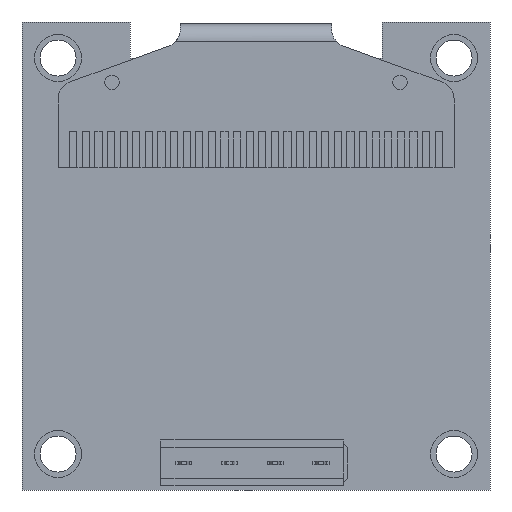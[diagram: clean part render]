
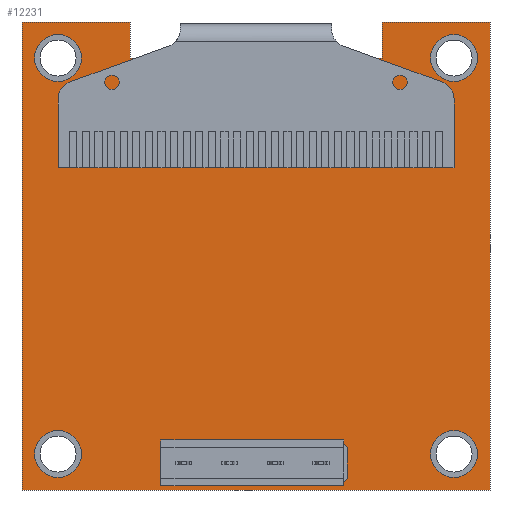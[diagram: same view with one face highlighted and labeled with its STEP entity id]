
A CAD part, front view. The second image highlights one B-rep face of the part: STEP entity #12231.
In plain terms, the highlighted planar face has unit normal (0, -1, 0).
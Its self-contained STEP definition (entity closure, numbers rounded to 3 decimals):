
#89=FACE_BOUND('',#1399,.T.);
#90=FACE_BOUND('',#1400,.T.);
#91=FACE_BOUND('',#1401,.T.);
#92=FACE_BOUND('',#1402,.T.);
#93=FACE_BOUND('',#1403,.T.);
#94=FACE_BOUND('',#1404,.T.);
#95=FACE_BOUND('',#1405,.T.);
#96=FACE_BOUND('',#1406,.T.);
#149=CIRCLE('',#13055,1.3);
#151=CIRCLE('',#13058,1.3);
#153=CIRCLE('',#13061,1.3);
#155=CIRCLE('',#13064,1.3);
#157=CIRCLE('',#13067,0.65);
#159=CIRCLE('',#13070,0.65);
#161=CIRCLE('',#13073,0.65);
#657=FACE_OUTER_BOUND('',#1398,.T.);
#1398=EDGE_LOOP('',(#8614,#8615,#8616,#8617,#8618,#8619,#8620,#8621));
#1399=EDGE_LOOP('',(#8622));
#1400=EDGE_LOOP('',(#8623));
#1401=EDGE_LOOP('',(#8624));
#1402=EDGE_LOOP('',(#8625));
#1403=EDGE_LOOP('',(#8626));
#1404=EDGE_LOOP('',(#8627));
#1405=EDGE_LOOP('',(#8628));
#1406=EDGE_LOOP('',(#8629,#8630,#8631,#8632));
#2264=LINE('',#17574,#3848);
#2277=LINE('',#17600,#3861);
#2278=LINE('',#17602,#3862);
#2279=LINE('',#17604,#3863);
#2280=LINE('',#17606,#3864);
#2281=LINE('',#17608,#3865);
#2282=LINE('',#17610,#3866);
#2283=LINE('',#17611,#3867);
#2284=LINE('',#17614,#3868);
#2285=LINE('',#17616,#3869);
#2286=LINE('',#17618,#3870);
#2287=LINE('',#17619,#3871);
#3848=VECTOR('',#14344,1000.);
#3861=VECTOR('',#14361,1000.);
#3862=VECTOR('',#14362,1000.);
#3863=VECTOR('',#14363,1000.);
#3864=VECTOR('',#14364,1000.);
#3865=VECTOR('',#14365,1000.);
#3866=VECTOR('',#14366,1000.);
#3867=VECTOR('',#14367,1000.);
#3868=VECTOR('',#14368,1000.);
#3869=VECTOR('',#14369,1000.);
#3870=VECTOR('',#14370,1000.);
#3871=VECTOR('',#14371,1000.);
#5348=VERTEX_POINT('',#17528);
#5350=VERTEX_POINT('',#17534);
#5352=VERTEX_POINT('',#17540);
#5354=VERTEX_POINT('',#17546);
#5356=VERTEX_POINT('',#17552);
#5358=VERTEX_POINT('',#17558);
#5360=VERTEX_POINT('',#17564);
#5363=VERTEX_POINT('',#17571);
#5364=VERTEX_POINT('',#17573);
#5375=VERTEX_POINT('',#17599);
#5376=VERTEX_POINT('',#17601);
#5377=VERTEX_POINT('',#17603);
#5378=VERTEX_POINT('',#17605);
#5379=VERTEX_POINT('',#17607);
#5380=VERTEX_POINT('',#17609);
#5381=VERTEX_POINT('',#17612);
#5382=VERTEX_POINT('',#17613);
#5383=VERTEX_POINT('',#17615);
#5384=VERTEX_POINT('',#17617);
#6575=EDGE_CURVE('',#5348,#5348,#149,.T.);
#6578=EDGE_CURVE('',#5350,#5350,#151,.T.);
#6581=EDGE_CURVE('',#5352,#5352,#153,.T.);
#6584=EDGE_CURVE('',#5354,#5354,#155,.T.);
#6587=EDGE_CURVE('',#5356,#5356,#157,.T.);
#6590=EDGE_CURVE('',#5358,#5358,#159,.T.);
#6593=EDGE_CURVE('',#5360,#5360,#161,.T.);
#6596=EDGE_CURVE('',#5363,#5364,#2264,.T.);
#6609=EDGE_CURVE('',#5375,#5363,#2277,.T.);
#6610=EDGE_CURVE('',#5376,#5375,#2278,.T.);
#6611=EDGE_CURVE('',#5377,#5376,#2279,.T.);
#6612=EDGE_CURVE('',#5378,#5377,#2280,.T.);
#6613=EDGE_CURVE('',#5379,#5378,#2281,.T.);
#6614=EDGE_CURVE('',#5380,#5379,#2282,.T.);
#6615=EDGE_CURVE('',#5364,#5380,#2283,.T.);
#6616=EDGE_CURVE('',#5381,#5382,#2284,.T.);
#6617=EDGE_CURVE('',#5382,#5383,#2285,.T.);
#6618=EDGE_CURVE('',#5383,#5384,#2286,.T.);
#6619=EDGE_CURVE('',#5384,#5381,#2287,.T.);
#8614=ORIENTED_EDGE('',*,*,#6609,.F.);
#8615=ORIENTED_EDGE('',*,*,#6610,.F.);
#8616=ORIENTED_EDGE('',*,*,#6611,.F.);
#8617=ORIENTED_EDGE('',*,*,#6612,.F.);
#8618=ORIENTED_EDGE('',*,*,#6613,.F.);
#8619=ORIENTED_EDGE('',*,*,#6614,.F.);
#8620=ORIENTED_EDGE('',*,*,#6615,.F.);
#8621=ORIENTED_EDGE('',*,*,#6596,.F.);
#8622=ORIENTED_EDGE('',*,*,#6578,.T.);
#8623=ORIENTED_EDGE('',*,*,#6584,.T.);
#8624=ORIENTED_EDGE('',*,*,#6590,.T.);
#8625=ORIENTED_EDGE('',*,*,#6593,.T.);
#8626=ORIENTED_EDGE('',*,*,#6587,.T.);
#8627=ORIENTED_EDGE('',*,*,#6581,.T.);
#8628=ORIENTED_EDGE('',*,*,#6575,.T.);
#8629=ORIENTED_EDGE('',*,*,#6616,.T.);
#8630=ORIENTED_EDGE('',*,*,#6617,.T.);
#8631=ORIENTED_EDGE('',*,*,#6618,.T.);
#8632=ORIENTED_EDGE('',*,*,#6619,.T.);
#11547=PLANE('',#13076);
#12231=ADVANCED_FACE('',(#657,#89,#90,#91,#92,#93,#94,#95,#96),#11547,.T.);
#13055=AXIS2_PLACEMENT_3D('',#17530,#14296,#14297);
#13058=AXIS2_PLACEMENT_3D('',#17536,#14303,#14304);
#13061=AXIS2_PLACEMENT_3D('',#17542,#14310,#14311);
#13064=AXIS2_PLACEMENT_3D('',#17548,#14317,#14318);
#13067=AXIS2_PLACEMENT_3D('',#17554,#14324,#14325);
#13070=AXIS2_PLACEMENT_3D('',#17560,#14331,#14332);
#13073=AXIS2_PLACEMENT_3D('',#17566,#14338,#14339);
#13076=AXIS2_PLACEMENT_3D('',#17598,#14359,#14360);
#14296=DIRECTION('center_axis',(0.,1.,0.));
#14297=DIRECTION('ref_axis',(0.,0.,1.));
#14303=DIRECTION('center_axis',(0.,1.,0.));
#14304=DIRECTION('ref_axis',(0.,0.,-1.));
#14310=DIRECTION('center_axis',(0.,1.,0.));
#14311=DIRECTION('ref_axis',(0.,0.,-1.));
#14317=DIRECTION('center_axis',(0.,1.,0.));
#14318=DIRECTION('ref_axis',(0.,0.,1.));
#14324=DIRECTION('center_axis',(0.,1.,0.));
#14325=DIRECTION('ref_axis',(0.,0.,1.));
#14331=DIRECTION('center_axis',(0.,1.,0.));
#14332=DIRECTION('ref_axis',(0.,0.,1.));
#14338=DIRECTION('center_axis',(0.,1.,0.));
#14339=DIRECTION('ref_axis',(0.,0.,1.));
#14344=DIRECTION('',(1.,0.,0.));
#14359=DIRECTION('center_axis',(0.,-1.,0.));
#14360=DIRECTION('ref_axis',(0.,0.,-1.));
#14361=DIRECTION('',(0.,0.,1.));
#14362=DIRECTION('',(1.,0.,0.));
#14363=DIRECTION('',(0.,0.,-1.));
#14364=DIRECTION('',(1.,0.,0.));
#14365=DIRECTION('',(0.,0.,1.));
#14366=DIRECTION('',(-1.,0.,0.));
#14367=DIRECTION('',(0.,0.,-1.));
#14368=DIRECTION('',(0.,0.,-1.));
#14369=DIRECTION('',(-1.,0.,0.));
#14370=DIRECTION('',(0.,0.,1.));
#14371=DIRECTION('',(1.,0.,0.));
#17528=CARTESIAN_POINT('',(11.,2.96,12.3));
#17530=CARTESIAN_POINT('Origin',(11.,2.96,11.));
#17534=CARTESIAN_POINT('',(-11.,2.96,12.3));
#17536=CARTESIAN_POINT('Origin',(-11.,2.96,11.));
#17540=CARTESIAN_POINT('',(11.,2.96,-9.7));
#17542=CARTESIAN_POINT('Origin',(11.,2.96,-11.));
#17546=CARTESIAN_POINT('',(-11.,2.96,-9.7));
#17548=CARTESIAN_POINT('Origin',(-11.,2.96,-11.));
#17552=CARTESIAN_POINT('',(3.81,2.96,-10.85));
#17554=CARTESIAN_POINT('Origin',(3.81,2.96,-11.5));
#17558=CARTESIAN_POINT('',(1.27,2.96,-10.85));
#17560=CARTESIAN_POINT('Origin',(1.27,2.96,-11.5));
#17564=CARTESIAN_POINT('',(-1.27,2.96,-10.85));
#17566=CARTESIAN_POINT('Origin',(-1.27,2.96,-11.5));
#17571=CARTESIAN_POINT('',(7.,2.96,13.));
#17573=CARTESIAN_POINT('',(13.,2.96,13.));
#17574=CARTESIAN_POINT('',(-13.,2.96,13.));
#17598=CARTESIAN_POINT('Origin',(0.,2.96,0.));
#17599=CARTESIAN_POINT('',(7.,2.96,11.));
#17600=CARTESIAN_POINT('',(7.,2.96,0.));
#17601=CARTESIAN_POINT('',(-7.,2.96,11.));
#17602=CARTESIAN_POINT('',(0.,2.96,11.));
#17603=CARTESIAN_POINT('',(-7.,2.96,13.));
#17604=CARTESIAN_POINT('',(-7.,2.96,0.));
#17605=CARTESIAN_POINT('',(-13.,2.96,13.));
#17606=CARTESIAN_POINT('',(-13.,2.96,13.));
#17607=CARTESIAN_POINT('',(-13.,2.96,-13.));
#17608=CARTESIAN_POINT('',(-13.,2.96,13.));
#17609=CARTESIAN_POINT('',(13.,2.96,-13.));
#17610=CARTESIAN_POINT('',(-13.,2.96,-13.));
#17611=CARTESIAN_POINT('',(13.,2.96,13.));
#17612=CARTESIAN_POINT('',(-3.16,2.96,-10.85));
#17613=CARTESIAN_POINT('',(-3.16,2.96,-12.15));
#17614=CARTESIAN_POINT('',(-3.16,2.96,-12.15));
#17615=CARTESIAN_POINT('',(-4.46,2.96,-12.15));
#17616=CARTESIAN_POINT('',(-3.16,2.96,-12.15));
#17617=CARTESIAN_POINT('',(-4.46,2.96,-10.85));
#17618=CARTESIAN_POINT('',(-4.46,2.96,-12.15));
#17619=CARTESIAN_POINT('',(-3.16,2.96,-10.85));
